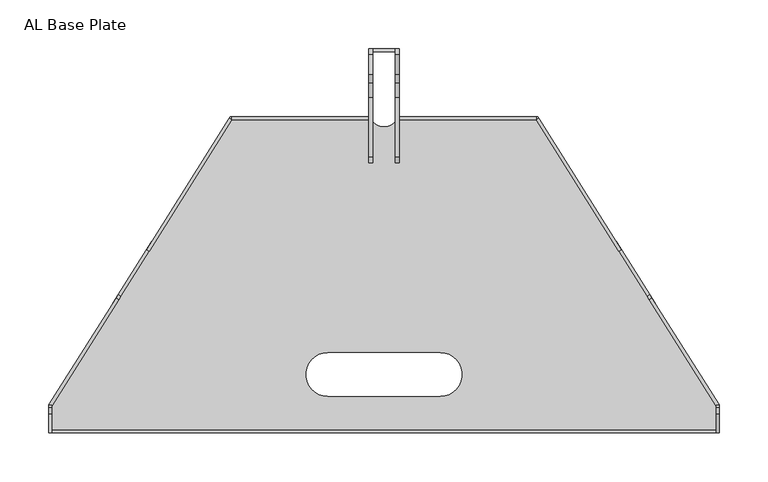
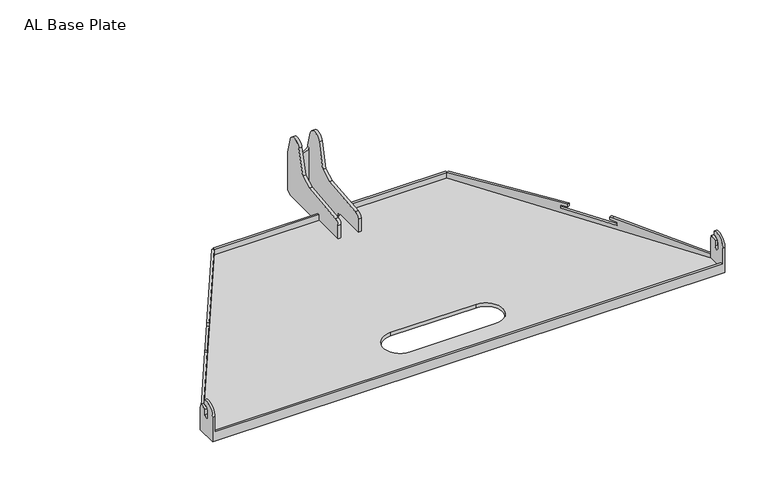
"""IFC4 building model written with IfcOpenShell, lengths in millimetres: proxy geometry, d&b A-Series Base Plate : AL Base Plate."""

import ifcopenshell
import ifcopenshell.guid

model = None  # the IFC model being written
_history = None  # IfcOwnerHistory: only IFC2X3 demands one
_inside = {}  # id of a spatial element -> (the spatial element, [elements in it])
_under = {}  # id of a project, library or spatial element -> (it, [spatial elements below it])
_declared = {}  # id of a project -> (the project, [libraries it declares])
_typed = {}  # id of a type object -> (the type object, [elements of that type])
_made_of = {}  # id of a material, layer set ... -> (it, [elements and type objects made of it])


def new_model(schema):
    """Start an empty IFC model of exactly this schema.

    Asked for "IFC4X3", IfcOpenShell would pick the latest addendum, in which some entities
    have other attributes; the version numbers below select the first issue.
    IFC2X3 requires an IfcOwnerHistory on every rooted entity: one is made here for all.
    """
    global model, _history
    if schema == "IFC4X3":
        model = ifcopenshell.file(schema_version=(4, 3, 0, 0))
    else:
        model = ifcopenshell.file(schema=schema)
    _inside.clear()
    _under.clear()
    _declared.clear()
    _typed.clear()
    _made_of.clear()
    _history = None
    if model.schema == "IFC2X3":
        org = make("IfcOrganization", Name="unknown")
        user = make(
            "IfcPersonAndOrganization",
            ThePerson=make("IfcPerson", FamilyName="unknown"),
            TheOrganization=org,
        )
        app = make(
            "IfcApplication",
            ApplicationDeveloper=org,
            Version="unknown",
            ApplicationFullName="unknown",
            ApplicationIdentifier="unknown",
        )
        _history = make(
            "IfcOwnerHistory",
            OwningUser=user,
            OwningApplication=app,
            ChangeAction="ADDED",
            CreationDate=0,
        )
    return model


def make(cls, **values):
    """One entity of the class cls with the attributes given. An attribute that is None is left unset."""
    return model.create_entity(
        cls, **{name: value for name, value in values.items() if value is not None}
    )


def rooted(cls, **values):
    """An entity with a GlobalId (a new one), such as an element, a storey or a relation."""
    return make(cls, GlobalId=ifcopenshell.guid.new(), OwnerHistory=_history, **values)


def si_unit(unit_type, name, prefix=None):
    """IfcSIUnit, for example si_unit("LENGTHUNIT", "METRE", prefix="MILLI")."""
    return make("IfcSIUnit", UnitType=unit_type, Prefix=prefix, Name=name)


def assignment(units):
    """IfcUnitAssignment: the units of a project."""
    return None if units is None else make("IfcUnitAssignment", Units=units)


def point(xyz):
    """IfcCartesianPoint."""
    return None if xyz is None else make("IfcCartesianPoint", Coordinates=xyz)


def direction(xyz):
    """IfcDirection."""
    return None if xyz is None else make("IfcDirection", DirectionRatios=xyz)


def frame(location, z_axis=None, x_axis=None):
    """IfcAxis2Placement3D, a coordinate frame: its origin and axes. An axis left out is left unset."""
    return make(
        "IfcAxis2Placement3D",
        Location=point(location),
        Axis=direction(z_axis),
        RefDirection=direction(x_axis),
    )


def frame_2d(location, x_axis=None):
    """IfcAxis2Placement2D, a coordinate frame in the plane: its origin and x axis."""
    return make(
        "IfcAxis2Placement2D", Location=point(location), RefDirection=direction(x_axis)
    )


def origin():
    """The frame at (0, 0, 0) with its axes left unset."""
    return frame((0.0, 0.0, 0.0))


def place(relative_to, where):
    """IfcLocalPlacement: puts the frame where relative to a parent placement (None: the world)."""
    return make(
        "IfcLocalPlacement", PlacementRelTo=relative_to, RelativePlacement=where
    )


def context(
    kind, dimensions, precision=None, world=None, true_north=None, identifier=None
):
    """IfcGeometricRepresentationContext, for example the 3D "Model" context."""
    return make(
        "IfcGeometricRepresentationContext",
        ContextIdentifier=identifier,
        ContextType=kind,
        CoordinateSpaceDimension=dimensions,
        Precision=precision,
        WorldCoordinateSystem=world,
        TrueNorth=true_north,
    )


def project(units=None, contexts=None):
    """IfcProject with its units and contexts."""
    return rooted(
        "IfcProject",
        Name="project",
        RepresentationContexts=contexts,
        UnitsInContext=assignment(units),
    )


def spatial(cls, under=None, at=None, **own):
    """A site, building, storey or space (cls), placed at a placement, below another one or the project."""
    s = rooted(cls, ObjectPlacement=at, **own)
    if under is not None:
        _under.setdefault(under.id(), (under, []))[1].append(s)
    return s


def polyline(points):
    """IfcPolyline through the points."""
    return make("IfcPolyline", Points=[point(p) for p in points])


def circle_curve(where, radius):
    """IfcCircle in the frame where."""
    return make("IfcCircle", Position=where, Radius=radius)


def trimmed(basis, trim1, trim2, sense, master):
    """IfcTrimmedCurve: the piece of a basis curve between two trims."""
    return make(
        "IfcTrimmedCurve",
        BasisCurve=basis,
        Trim1=trim1,
        Trim2=trim2,
        SenseAgreement=sense,
        MasterRepresentation=master,
    )


def segment(curve, same_sense, transition):
    """IfcCompositeCurveSegment."""
    return make(
        "IfcCompositeCurveSegment",
        Transition=transition,
        SameSense=same_sense,
        ParentCurve=curve,
    )


def composite_curve(segments, self_intersect=None):
    """IfcCompositeCurve: segments joined end to end."""
    return make("IfcCompositeCurve", Segments=segments, SelfIntersect=self_intersect)


def outline(outer, holes=None, kind="AREA"):
    """IfcArbitraryClosedProfileDef: a profile drawn as a closed curve; with holes, ...WithVoids."""
    if holes is None:
        return make("IfcArbitraryClosedProfileDef", ProfileType=kind, OuterCurve=outer)
    return make(
        "IfcArbitraryProfileDefWithVoids",
        ProfileType=kind,
        OuterCurve=outer,
        InnerCurves=holes,
    )


def extrude(swept, where, along, depth):
    """IfcExtrudedAreaSolid: the profile swept, set in the frame where, extruded along a direction by depth."""
    return make(
        "IfcExtrudedAreaSolid",
        SweptArea=swept,
        Position=where,
        ExtrudedDirection=direction(along),
        Depth=depth,
    )


def shape(context_of_items, identifier, shape_type, items):
    """IfcShapeRepresentation: the items that make up one representation, for example the "Body"."""
    return make(
        "IfcShapeRepresentation",
        ContextOfItems=context_of_items,
        RepresentationIdentifier=identifier,
        RepresentationType=shape_type,
        Items=items,
    )


def source(mapping_origin, context_of_items, identifier, shape_type, items):
    """IfcRepresentationMap: a shape defined once, which mapped items show again and again."""
    return make(
        "IfcRepresentationMap",
        MappingOrigin=mapping_origin,
        MappedRepresentation=shape(context_of_items, identifier, shape_type, items),
    )


def transform(
    local_origin,
    x_axis=None,
    y_axis=None,
    z_axis=None,
    scale=None,
    scale2=None,
    scale3=None,
    uniform=True,
):
    """IfcCartesianTransformationOperator3D, or its non-uniform kind. x_axis, y_axis, z_axis: its Axis1, 2, 3."""
    if uniform:
        return make(
            "IfcCartesianTransformationOperator3D",
            Axis1=direction(x_axis),
            Axis2=direction(y_axis),
            LocalOrigin=point(local_origin),
            Scale=scale,
            Axis3=direction(z_axis),
        )
    return make(
        "IfcCartesianTransformationOperator3DnonUniform",
        Axis1=direction(x_axis),
        Axis2=direction(y_axis),
        LocalOrigin=point(local_origin),
        Scale=scale,
        Axis3=direction(z_axis),
        Scale2=scale2,
        Scale3=scale3,
    )


def mapped(mapping_source, mapping_target):
    """IfcMappedItem: shows the shape of a source again, moved by a transform."""
    return make(
        "IfcMappedItem", MappingSource=mapping_source, MappingTarget=mapping_target
    )


def made_of(thing, what):
    """Note that an element or type object is made of a material, layer set ...; save() writes the relation."""
    if what is not None:
        _made_of.setdefault(what.id(), (what, []))[1].append(thing)
    return thing


def element(
    cls,
    number,
    at=None,
    inside=None,
    cuts=None,
    type_object=None,
    material=None,
    context=None,
    identifier="Body",
    shape_type=None,
    held_by="IfcProductDefinitionShape",
    body=None,
    shapes=None,
    **own,
):
    """One element of the class cls, such as IfcWall. Its Tag is "e" and its number.

    at: its placement. inside: the storey or other place that contains it. cuts: it is an
    opening in that element (IfcRelVoidsElement). A single representation is given by context,
    identifier, shape_type and body (its items); several are given by shapes. held_by: the class
    of the entity that holds the representations. save() writes the other relations.
    """
    e = rooted(cls, Tag="e%d" % number, ObjectPlacement=at, **own)
    if body is not None:
        shapes = [shape(context, identifier, shape_type, body)]
    if shapes is not None:
        e.Representation = make(held_by, Representations=shapes)
    if inside is not None:
        _inside.setdefault(inside.id(), (inside, []))[1].append(e)
    if cuts is not None:
        rooted(
            "IfcRelVoidsElement", RelatingBuildingElement=cuts, RelatedOpeningElement=e
        )
    if type_object is not None:
        _typed.setdefault(type_object.id(), (type_object, []))[1].append(e)
    return made_of(e, material)


def aggregate(whole, parts):
    """IfcRelAggregates: a whole, such as a stair, and the parts it consists of."""
    return rooted("IfcRelAggregates", RelatingObject=whole, RelatedObjects=parts)


def save(model, path):
    """Write the relations noted so far, then the file.

    IfcRelAggregates (storeys below a building ...), IfcRelContainedInSpatialStructure (elements
    in a storey), IfcRelDefinesByType, IfcRelAssociatesMaterial and IfcRelDeclares: one each for
    every whole, place, type object, material and project.
    """
    for whole, parts in _under.values():
        aggregate(whole, parts)
    for where, things in _inside.values():
        rooted(
            "IfcRelContainedInSpatialStructure",
            RelatedElements=things,
            RelatingStructure=where,
        )
    for kind, things in _typed.values():
        rooted("IfcRelDefinesByType", RelatedObjects=things, RelatingType=kind)
    for what, things in _made_of.values():
        rooted("IfcRelAssociatesMaterial", RelatedObjects=things, RelatingMaterial=what)
    for by, libraries in _declared.values():
        rooted("IfcRelDeclares", RelatingContext=by, RelatedDefinitions=libraries)
    model.write(path)


def plane_surface(at):
    """IfcPlane: the flat surface through the origin of the frame at, square to its z axis."""
    return make("IfcPlane", Position=at)


def cylinder_surface(at, radius):
    """IfcCylindricalSurface: all points at the distance radius from the z axis of the frame at."""
    return make("IfcCylindricalSurface", Position=at, Radius=radius)


def revolved_surface(curve, axis_point, axis_direction):
    """IfcSurfaceOfRevolution: the curve turned about the line through axis_point along axis_direction."""
    return make(
        "IfcSurfaceOfRevolution",
        SweptCurve=make("IfcArbitraryOpenProfileDef", ProfileType="CURVE", Curve=curve),
        AxisPosition=make("IfcAxis1Placement", Location=point(axis_point), Axis=direction(axis_direction)),
    )


def advanced_brep(points, edges, surfaces, faces):
    """IfcAdvancedBrep: a solid bounded by faces that lie on surfaces and meet in shared edges.

    An edge is (start, end): straight between two places in points (the first is 0);
    or (start, end, curve); or (start, end, curve, False) where it runs against its curve.
    A face is (place in surfaces, loops), or (place, loops, False) where it looks against
    its surface's normal. A loop lists edges by number (the first is 1), with a minus sign
    where the edge is run from its end to its start. The first loop is the outer one.
    """
    corners = [point(p) for p in points]
    vertices = [make("IfcVertexPoint", VertexGeometry=c) for c in corners]
    made = []
    for start, end, *more in edges:
        made.append(
            make(
                "IfcEdgeCurve",
                EdgeStart=vertices[start],
                EdgeEnd=vertices[end],
                EdgeGeometry=more[0] if more else make("IfcPolyline", Points=[corners[start], corners[end]]),
                SameSense=more[1] if len(more) > 1 else True,
            )
        )
    hull = []
    for where, loops, *sense in faces:
        bounds = []
        for j, loop in enumerate(loops):
            ring = [make("IfcOrientedEdge", EdgeElement=made[abs(k) - 1], Orientation=k > 0) for k in loop]
            bounds.append(
                make(
                    "IfcFaceOuterBound" if j == 0 else "IfcFaceBound",
                    Bound=make("IfcEdgeLoop", EdgeList=ring),
                    Orientation=True,
                )
            )
        hull.append(make("IfcAdvancedFace", Bounds=bounds, FaceSurface=surfaces[where], SameSense=sense[0] if sense else True))
    return make("IfcAdvancedBrep", Outer=make("IfcClosedShell", CfsFaces=hull))


def al_base_plate_bf33ff07(model_context):
    return source(origin(), model_context, "Body", "SolidModel", [
        advanced_brep(
        [(-341.0, 28.25, 31.8354162), (-341.0, 26.3175579, 37.7828613), (-341.0, 17.65, 35.4603962), (-341.0, 17.65, 28.0), (-341.0, 10.85, 28.0), (-341.0, 10.85, 35.0), (-341.0, 19.25, 42.3321211), (-341.0, 19.25, 48.3440061), (-341.0, 0.0, 35.0), (-341.0, 0.0, 13.0), (-341.0, 3.0, 13.0), (-341.0, 3.0, 5.0), (-341.0, 27.6099103, 5.0), (-341.0, 27.6099103, 10.0689244), (-341.0, 28.25, 10.1087011), (-344.0, 28.25, 31.8354162), (-344.0, 28.25, 5.0), (-344.0, 28.4757399, 5.0), (-344.0, 28.4757399, 0.0), (-344.0, 0.0, 0.0), (-344.0, 0.0, 35.0), (-344.0, 19.25, 48.3440061), (-344.0, 19.25, 42.3321211), (-344.0, 10.85, 35.0), (-344.0, 10.85, 28.0), (-344.0, 17.65, 28.0), (-344.0, 17.65, 35.4603962), (-344.0, 26.3175579, 37.7828613), (344.0, 0.0, 0.0), (344.0, 0.0, 35.0), (341.0, 0.0, 35.0), (341.0, 0.0, 13.0), (-342.8396399, 28.25, 10.0367177), (-342.8396399, 28.25, 5.0), (-343.7723416, 28.8372928, 5.0), (15.5, 324.25, 5.0), (15.5, 319.25, 5.0), (11.5, 319.25, 5.0), (-11.5, 319.25, 5.0), (-15.5, 319.25, 5.0), (-15.5, 324.25, 5.0), (-15.75, 324.25, 5.0), (-15.75, 321.25, 5.0), (-156.0, 321.25, 5.0), (-156.0, 324.25, 5.0), (-157.7603006, 324.25, 5.0), (-158.6982535, 322.7604018, 5.0), (-156.1595994, 321.1618916, 5.0), (341.0, 3.0, 5.0), (341.0, 27.6099103, 5.0), (156.1595994, 321.1618916, 5.0), (158.6982535, 322.7604018, 5.0), (157.7603006, 324.25, 5.0), (156.0, 324.25, 5.0), (156.0, 321.25, 5.0), (15.75, 321.25, 5.0), (15.75, 324.25, 5.0), (57.5, 82.5, 5.0), (57.5, 37.5, 5.0), (-57.5, 37.5, 5.0), (-57.5, 82.5, 5.0), (344.0, 28.25, 5.0), (344.0, 28.4757399, 5.0), (343.7723416, 28.8372928, 5.0), (342.8396399, 28.25, 5.0), (-15.5, 324.25, 0.0), (-15.5, 319.25, 0.0), (-11.5, 319.25, 0.0), (11.5, 319.25, 0.0), (15.5, 319.25, 0.0), (15.5, 324.25, 0.0), (157.7603006, 324.25, 0.0), (344.0, 28.4757399, 0.0), (-157.7603006, 324.25, 0.0), (57.5, 82.5, 0.0), (-57.5, 82.5, 0.0), (-57.5, 37.5, 0.0), (57.5, 37.5, 0.0), (-156.0, 324.25, 13.0), (-15.75, 324.25, 13.0), (-343.7723416, 28.8372928, 10.0367177), (-274.8731697, 138.2586549, 19.532382), (-272.7432565, 141.64125, 19.532382), (-272.7432565, 141.64125, 15.732382), (-278.0573146, 133.2017948, 15.0), (-278.0573146, 133.2017948, 11.0), (-238.0945582, 196.6681489, 11.0), (-238.0945582, 196.6681489, 15.0), (-243.4086163, 188.2286937, 15.732382), (-243.4086163, 188.2286937, 19.70095), (-158.6982535, 322.7604018, 12.9609546), (344.0, 28.25, 31.8354162), (344.0, 26.3175579, 37.7828613), (344.0, 17.65, 35.4603962), (344.0, 17.65, 28.0), (344.0, 10.85, 28.0), (344.0, 10.85, 35.0), (344.0, 19.25, 42.3321211), (344.0, 19.25, 48.3440061), (158.6982535, 322.7604018, 12.9609546), (243.4086163, 188.2286937, 19.70095), (243.4086163, 188.2286937, 15.732382), (238.0945582, 196.6681489, 15.0), (238.0945582, 196.6681489, 11.0), (278.0573146, 133.2017948, 11.0), (278.0573146, 133.2017948, 15.0), (272.7432565, 141.64125, 15.732382), (272.7432565, 141.64125, 19.532382), (274.8731697, 138.2586549, 19.532382), (343.7723416, 28.8372928, 10.0367177), (15.75, 324.25, 13.0), (156.0, 324.25, 13.0), (-156.1595994, 321.1618916, 12.9609546), (-240.8699621, 186.6301835, 19.70095), (-240.8699621, 186.6301835, 15.732382), (-235.5559041, 195.0696386, 15.0), (-235.5559041, 195.0696386, 11.0), (-275.5186605, 131.6032845, 11.0), (-275.5186605, 131.6032845, 15.0), (-270.2046024, 140.0427397, 15.732382), (-270.2046024, 140.0427397, 19.532382), (-272.3345156, 136.6601446, 19.532382), (341.0, 19.25, 48.3440061), (341.0, 19.25, 42.3321211), (341.0, 10.85, 35.0), (341.0, 10.85, 28.0), (341.0, 17.65, 28.0), (341.0, 17.65, 35.4603962), (341.0, 26.3175579, 37.7828613), (341.0, 28.25, 31.8354162), (341.0, 28.25, 10.1087011), (341.0, 27.6099103, 10.0689244), (341.0, 3.0, 13.0), (342.8396399, 28.25, 10.0367177), (272.3345156, 136.6601446, 19.532382), (270.2046024, 140.0427397, 19.532382), (270.2046024, 140.0427397, 15.732382), (275.5186605, 131.6032845, 15.0), (275.5186605, 131.6032845, 11.0), (235.5559041, 195.0696386, 11.0), (235.5559041, 195.0696386, 15.0), (240.8699621, 186.6301835, 15.732382), (240.8699621, 186.6301835, 19.70095), (156.1595994, 321.1618916, 12.9609546), (-156.0, 321.25, 13.0), (-15.75, 321.25, 13.0), (15.75, 321.25, 13.0), (156.0, 321.25, 13.0)],
        [
            (0, 1),
            (1, 2),
            (2, 3),
            (3, 4, circle_curve(frame((-341.0, 14.25, 28.0), z_axis=(-1.0, 0.0, 0.0), x_axis=(0.0, 0.0, 1.0)), 3.4)),
            (4, 5),
            (5, 6, circle_curve(frame((-341.0, 18.25, 35.0), z_axis=(-1.0, 0.0, 0.0), x_axis=(0.0, 0.0, 1.0)), 7.4)),
            (6, 7),
            (7, 8, circle_curve(frame((-341.0, 14.25, 35.0), z_axis=(1.0, 0.0, 0.0), x_axis=(0.0, 0.0, -1.0)), 14.25)),
            (8, 9),
            (9, 10),
            (10, 11),
            (11, 12),
            (12, 13),
            (13, 14),
            (14, 0),
            (15, 16),
            (16, 17),
            (17, 18),
            (18, 19),
            (19, 20),
            (20, 21, circle_curve(frame((-344.0, 14.25, 35.0), z_axis=(-1.0, 0.0, 0.0), x_axis=(0.0, 0.0, -1.0)), 14.25)),
            (21, 22),
            (22, 23, circle_curve(frame((-344.0, 18.25, 35.0), z_axis=(1.0, 0.0, 0.0), x_axis=(0.0, 0.0, 1.0)), 7.4)),
            (23, 24),
            (24, 25, circle_curve(frame((-344.0, 14.25, 28.0), z_axis=(1.0, 0.0, 0.0), x_axis=(0.0, 0.0, 1.0)), 3.4)),
            (25, 26),
            (26, 27),
            (27, 15),
            (0, 15),
            (27, 1),
            (26, 2),
            (25, 3),
            (24, 4),
            (23, 5),
            (22, 6),
            (21, 7),
            (20, 8),
            (19, 28),
            (28, 29),
            (29, 30),
            (30, 31),
            (31, 9),
            (14, 32),
            (32, 33),
            (33, 16),
            (33, 34),
            (34, 17),
            (35, 36),
            (36, 37),
            (37, 38, circle_curve(frame((0.0, 328.9229843, 5.0), z_axis=(0.0, 0.0, -1.0), x_axis=(1.0, 0.0, 0.0)), 15.0271962)),
            (38, 39),
            (39, 40),
            (40, 41),
            (41, 42),
            (42, 43),
            (43, 44),
            (44, 45),
            (45, 46),
            (46, 47),
            (47, 12),
            (11, 48),
            (48, 49),
            (49, 50),
            (50, 51),
            (51, 52),
            (52, 53),
            (53, 54),
            (54, 55),
            (55, 56),
            (56, 35),
            (57, 58, circle_curve(frame((57.5, 60.0, 5.0), z_axis=(0.0, 0.0, -1.0), x_axis=(1.0, 0.0, 0.0)), 22.5)),
            (58, 59),
            (59, 60, circle_curve(frame((-57.5, 60.0, 5.0), z_axis=(0.0, 0.0, -1.0), x_axis=(1.0, 0.0, 0.0)), 22.5)),
            (60, 57),
            (61, 62),
            (62, 63),
            (63, 64),
            (64, 61),
            (65, 66),
            (66, 67),
            (67, 68, circle_curve(frame((0.0, 328.9229843, 0.0), z_axis=(0.0, 0.0, 1.0), x_axis=(1.0, 0.0, 0.0)), 15.0271962)),
            (68, 69),
            (69, 70),
            (70, 71),
            (71, 72),
            (72, 28),
            (18, 73),
            (73, 65),
            (74, 75),
            (75, 76, circle_curve(frame((-57.5, 60.0, 0.0), z_axis=(0.0, 0.0, 1.0), x_axis=(1.0, 0.0, 0.0)), 22.5)),
            (76, 77),
            (77, 74, circle_curve(frame((57.5, 60.0, 0.0), z_axis=(0.0, 0.0, 1.0), x_axis=(1.0, 0.0, 0.0)), 22.5)),
            (73, 45),
            (44, 78),
            (78, 79),
            (79, 41),
            (40, 65),
            (34, 80),
            (80, 81),
            (81, 82),
            (82, 83),
            (83, 84),
            (84, 85),
            (85, 86),
            (86, 87),
            (87, 88),
            (88, 89),
            (89, 90),
            (90, 46),
            (72, 62),
            (61, 91),
            (91, 92),
            (92, 93),
            (93, 94),
            (94, 95, circle_curve(frame((344.0, 14.25, 28.0), z_axis=(-1.0, 0.0, 0.0), x_axis=(0.0, 0.0, 1.0)), 3.4)),
            (95, 96),
            (96, 97, circle_curve(frame((344.0, 18.25, 35.0), z_axis=(-1.0, 0.0, 0.0), x_axis=(0.0, 0.0, 1.0)), 7.4)),
            (97, 98),
            (98, 29, circle_curve(frame((344.0, 14.25, 35.0), z_axis=(1.0, 0.0, 0.0), x_axis=(0.0, 0.0, -1.0)), 14.25)),
            (71, 52),
            (51, 99),
            (99, 100),
            (100, 101),
            (101, 102),
            (102, 103),
            (103, 104),
            (104, 105),
            (105, 106),
            (106, 107),
            (107, 108),
            (108, 109),
            (109, 63),
            (70, 35),
            (56, 110),
            (110, 111),
            (111, 53),
            (69, 36),
            (68, 37),
            (67, 38),
            (66, 39),
            (57, 74),
            (77, 58),
            (76, 59),
            (75, 60),
            (47, 112),
            (112, 113),
            (113, 114),
            (114, 115),
            (115, 116),
            (116, 117),
            (117, 118),
            (118, 119),
            (119, 120),
            (120, 121),
            (121, 13),
            (80, 32),
            (121, 81),
            (120, 82),
            (119, 83),
            (118, 84),
            (117, 85),
            (116, 86),
            (115, 87),
            (114, 88),
            (113, 89),
            (112, 90),
            (30, 122, circle_curve(frame((341.0, 14.25, 35.0), z_axis=(-1.0, 0.0, 0.0), x_axis=(0.0, 0.0, -1.0)), 14.25)),
            (122, 123),
            (123, 124, circle_curve(frame((341.0, 18.25, 35.0), z_axis=(1.0, 0.0, 0.0), x_axis=(0.0, 0.0, 1.0)), 7.4)),
            (124, 125),
            (125, 126, circle_curve(frame((341.0, 14.25, 28.0), z_axis=(1.0, 0.0, 0.0), x_axis=(0.0, 0.0, 1.0)), 3.4)),
            (126, 127),
            (127, 128),
            (128, 129),
            (129, 130),
            (130, 131),
            (131, 49),
            (48, 132),
            (132, 31),
            (128, 92),
            (91, 129),
            (127, 93),
            (126, 94),
            (125, 95),
            (124, 96),
            (123, 97),
            (122, 98),
            (64, 133),
            (133, 130),
            (134, 135),
            (135, 136),
            (136, 137),
            (137, 138),
            (138, 139),
            (139, 140),
            (140, 141),
            (141, 142),
            (142, 143),
            (143, 50),
            (131, 134),
            (108, 134),
            (133, 109),
            (107, 135),
            (106, 136),
            (105, 137),
            (104, 138),
            (103, 139),
            (102, 140),
            (101, 141),
            (100, 142),
            (99, 143),
            (78, 144),
            (144, 145),
            (145, 79),
            (110, 146),
            (146, 147),
            (147, 111),
            (132, 10),
            (43, 144),
            (42, 145),
            (55, 146),
            (54, 147),
        ],
        [
            plane_surface(frame((-341.0, 26.6108041, 36.8803424), z_axis=(1.0000000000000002, 0.0, 0.0), x_axis=(0.0, -0.30901699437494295, 0.9510565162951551))),
            plane_surface(frame((-344.0, 26.6108041, 36.8803424), z_axis=(-1.0000000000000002, 0.0, 0.0), x_axis=(0.0, 0.30901699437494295, -0.9510565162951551))),
            plane_surface(frame((-341.0, 28.25, 31.8354162), z_axis=(0.0, 0.9510565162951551, 0.30901699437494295), x_axis=(-1.0, 0.0, 0.0))),
            plane_surface(frame((-341.0, 26.3175579, 37.7828613), z_axis=(0.0, -0.25881904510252, 0.9659258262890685), x_axis=(-1.0, 0.0, 0.0))),
            plane_surface(frame((-341.0, 17.65, 35.4603962), z_axis=(0.0, -1.0, 0.0), x_axis=(-1.0, 0.0, 0.0))),
            revolved_surface(polyline([(-344.0, 14.25, 31.4), (-341.0, 14.25, 31.4)]), (-344.0, 14.25, 28.0), (-1.0, 0.0, 0.0)),
            plane_surface(frame((-341.0, 10.85, 28.0), z_axis=(0.0, 1.0, 0.0), x_axis=(-1.0, 0.0, 0.0))),
            revolved_surface(polyline([(-344.0, 18.25, 42.4), (-341.0, 18.25, 42.4)]), (-344.0, 18.25, 35.0), (-1.0, 0.0, 0.0)),
            plane_surface(frame((-341.0, 19.25, 42.3321211), z_axis=(0.0, 1.0, 0.0), x_axis=(-1.0, 0.0, 0.0))),
            cylinder_surface(frame((-344.0, 14.25, 35.0), z_axis=(1.0, 0.0, 0.0), x_axis=(0.0, 0.0, -1.0)), 14.25),
            plane_surface(frame((-341.0, 0.0, 35.0), z_axis=(0.0, -1.0, 0.0), x_axis=(-1.0, 0.0, 0.0))),
            plane_surface(frame((-341.0, 28.25, 5.0), z_axis=(0.0, 1.0, 0.0), x_axis=(-1.0, 0.0, 0.0))),
            plane_surface(frame((-156.0, 324.25, 5.0), z_axis=(0.0, 0.0, 1.0), x_axis=(-1.0, 0.0, 0.0))),
            plane_surface(frame((-156.0, 324.25, 0.0), z_axis=(0.0, 0.0, -1.0), x_axis=(1.0, 0.0, 0.0))),
            plane_surface(frame((-15.5, 324.25, 5.0), z_axis=(0.0, 1.0, 0.0), x_axis=(0.0, 0.0, -1.0))),
            plane_surface(frame((-157.7603006, 324.25, 5.0), z_axis=(-0.8462180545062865, 0.5328367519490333, 0.0), x_axis=(0.0, 0.0, -1.0))),
            plane_surface(frame((344.0, 0.0, 5.0), z_axis=(1.0, 0.0, 0.0), x_axis=(0.0, 0.0, -1.0))),
            plane_surface(frame((344.0, 28.4757399, 5.0), z_axis=(0.8462180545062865, 0.5328367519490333, 0.0), x_axis=(0.0, 0.0, -1.0))),
            plane_surface(frame((157.7603006, 324.25, 5.0), z_axis=(0.0, 1.0, 0.0), x_axis=(0.0, 0.0, -1.0))),
            plane_surface(frame((15.5, 324.25, 5.0), z_axis=(-1.0, 0.0, 0.0), x_axis=(0.0, 0.0, -1.0))),
            plane_surface(frame((15.5, 319.25, 5.0), z_axis=(0.0, 1.0, 0.0), x_axis=(0.0, 0.0, -1.0))),
            revolved_surface(polyline([(15.0271962, 328.9229843, 0.0), (15.0271962, 328.9229843, 5.0)]), (0.0, 328.9229843, 0.0), (0.0, 0.0, -1.0)),
            plane_surface(frame((-11.5, 319.25, 5.0), z_axis=(0.0, 1.0, 0.0), x_axis=(0.0, 0.0, -1.0))),
            plane_surface(frame((-15.5, 319.25, 5.0), z_axis=(1.0, 0.0, 0.0), x_axis=(0.0, 0.0, -1.0))),
            revolved_surface(polyline([(80.0, 60.0, 0.0), (80.0, 60.0, 5.0)]), (57.5, 60.0, 0.0), (0.0, 0.0, -1.0)),
            plane_surface(frame((57.5, 37.5, 5.0), z_axis=(0.0, 1.0, 0.0), x_axis=(0.0, 0.0, -1.0))),
            revolved_surface(polyline([(-35.0, 60.0, 0.0), (-35.0, 60.0, 5.0)]), (-57.5, 60.0, 0.0), (0.0, 0.0, -1.0)),
            plane_surface(frame((-57.5, 82.5, 5.0), z_axis=(0.0, -1.0, 0.0), x_axis=(0.0, 0.0, -1.0))),
            plane_surface(frame((-272.3540013, 136.6291985, 19.5296964), z_axis=(0.8462180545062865, -0.5328367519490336, 0.0), x_axis=(-0.5314058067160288, -0.8439455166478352, -0.07323819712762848))),
            plane_surface(frame((-343.7723416, 28.8372928, 10.0367177), z_axis=(-0.0390240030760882, -0.0619754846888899, 0.9973144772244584), x_axis=(0.8462180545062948, -0.53283675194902, 0.0))),
            plane_surface(frame((-274.8731697, 138.2586549, 19.532382), z_axis=(0.0, 0.0, 1.0), x_axis=(0.8462180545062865, -0.5328367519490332, 0.0))),
            plane_surface(frame((-272.7432565, 141.64125, 19.532382), z_axis=(0.5328367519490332, 0.8462180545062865, 0.0), x_axis=(0.8462180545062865, -0.5328367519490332, 0.0))),
            plane_surface(frame((-272.7432565, 141.64125, 15.732382), z_axis=(0.039024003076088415, 0.061975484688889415, -0.9973144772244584), x_axis=(0.8462180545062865, -0.5328367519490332, 0.0))),
            plane_surface(frame((-278.0573146, 133.2017948, 15.0), z_axis=(0.5328367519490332, 0.8462180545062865, 0.0), x_axis=(0.8462180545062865, -0.5328367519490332, 0.0))),
            plane_surface(frame((-278.0573146, 133.2017948, 11.0), z_axis=(0.0, 0.0, 1.0), x_axis=(0.8462180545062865, -0.5328367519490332, 0.0))),
            plane_surface(frame((-238.0945582, 196.6681489, 11.0), z_axis=(-0.5328367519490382, -0.8462180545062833, 0.0), x_axis=(0.8462180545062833, -0.5328367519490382, 0.0))),
            plane_surface(frame((-238.0945582, 196.6681489, 15.0), z_axis=(-0.039024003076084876, -0.06197548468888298, -0.9973144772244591), x_axis=(0.8462180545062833, -0.5328367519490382, 0.0))),
            plane_surface(frame((-243.4086163, 188.2286937, 15.732382), z_axis=(-0.5328367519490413, -0.8462180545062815, 0.0), x_axis=(0.8462180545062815, -0.5328367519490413, 0.0))),
            plane_surface(frame((-243.4086163, 188.2286937, 19.70095), z_axis=(0.022569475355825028, 0.03584343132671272, 0.9991025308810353), x_axis=(0.8462180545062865, -0.5328367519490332, 0.0))),
            plane_surface(frame((-158.6982535, 322.7604018, 12.9609546), z_axis=(0.53283675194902, 0.8462180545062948, 0.0), x_axis=(0.8462180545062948, -0.53283675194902, 0.0))),
            plane_surface(frame((-343.7723416, 28.8372928, 5.0), z_axis=(-0.53283675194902, -0.8462180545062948, 0.0), x_axis=(0.8462180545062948, -0.53283675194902, 0.0))),
            plane_surface(frame((341.0, 28.25, 11.5), z_axis=(-1.0, 0.0, 0.0), x_axis=(0.0, 0.0, -1.0))),
            plane_surface(frame((341.0, 26.3175579, 37.7828613), z_axis=(0.0, 0.9510565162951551, 0.30901699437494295), x_axis=(1.0, 0.0, 0.0))),
            plane_surface(frame((341.0, 17.65, 35.4603962), z_axis=(0.0, -0.25881904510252, 0.9659258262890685), x_axis=(1.0, 0.0, 0.0))),
            plane_surface(frame((341.0, 17.65, 28.0), z_axis=(0.0, -1.0, 0.0), x_axis=(1.0, 0.0, 0.0))),
            revolved_surface(polyline([(344.0, 14.25, 31.4), (341.0, 14.25, 31.4)]), (344.0, 14.25, 28.0), (1.0, 0.0, 0.0)),
            plane_surface(frame((341.0, 10.85, 35.0), z_axis=(0.0, 1.0, 0.0), x_axis=(1.0, 0.0, 0.0))),
            revolved_surface(polyline([(344.0, 18.25, 42.4), (341.0, 18.25, 42.4)]), (344.0, 18.25, 35.0), (1.0, 0.0, 0.0)),
            plane_surface(frame((341.0, 19.25, 48.3440061), z_axis=(0.0, 1.0, 0.0), x_axis=(1.0, 0.0, 0.0))),
            cylinder_surface(frame((344.0, 14.25, 35.0), z_axis=(-1.0, 0.0, 0.0), x_axis=(0.0, 0.0, -1.0)), 14.25),
            plane_surface(frame((341.0, 28.25, 31.8354162), z_axis=(0.0, 1.0, 0.0), x_axis=(1.0, 0.0, 0.0))),
            plane_surface(frame((341.2336874, 27.2387825, 9.0707427), z_axis=(-0.8462180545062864, -0.5328367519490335, 0.0), x_axis=(0.0, 0.0, 1.0))),
            plane_surface(frame((274.8731697, 138.2586549, 19.532382), z_axis=(0.03902400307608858, -0.06197548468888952, 0.9973144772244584), x_axis=(-0.8462180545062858, -0.5328367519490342, 0.0))),
            plane_surface(frame((272.7432565, 141.64125, 19.532382), z_axis=(0.0, 0.0, 1.0), x_axis=(-0.8462180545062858, -0.5328367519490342, 0.0))),
            plane_surface(frame((272.7432565, 141.64125, 15.732382), z_axis=(-0.5328367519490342, 0.8462180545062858, 0.0), x_axis=(-0.8462180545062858, -0.5328367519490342, 0.0))),
            plane_surface(frame((278.0573146, 133.2017948, 15.0), z_axis=(-0.039024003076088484, 0.061975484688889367, -0.9973144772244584), x_axis=(-0.8462180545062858, -0.5328367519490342, 0.0))),
            plane_surface(frame((278.0573146, 133.2017948, 11.0), z_axis=(-0.5328367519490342, 0.8462180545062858, 0.0), x_axis=(-0.8462180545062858, -0.5328367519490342, 0.0))),
            plane_surface(frame((238.0945582, 196.6681489, 11.0), z_axis=(0.0, 0.0, 1.0), x_axis=(-0.8462180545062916, -0.5328367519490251, 0.0))),
            plane_surface(frame((238.0945582, 196.6681489, 15.0), z_axis=(0.5328367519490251, -0.8462180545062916, 0.0), x_axis=(-0.8462180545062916, -0.5328367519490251, 0.0))),
            plane_surface(frame((243.4086163, 188.2286937, 15.732382), z_axis=(0.039024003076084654, -0.06197548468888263, -0.9973144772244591), x_axis=(-0.8462180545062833, -0.5328367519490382, 0.0))),
            plane_surface(frame((243.4086163, 188.2286937, 19.70095), z_axis=(0.5328367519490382, -0.8462180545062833, 0.0), x_axis=(-0.8462180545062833, -0.5328367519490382, 0.0))),
            plane_surface(frame((158.6982535, 322.7604018, 12.9609546), z_axis=(-0.022569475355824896, 0.0358434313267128, 0.9991025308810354), x_axis=(-0.8462180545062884, -0.5328367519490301, 0.0))),
            plane_surface(frame((158.6982535, 322.7604018, 5.0), z_axis=(-0.5328367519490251, 0.8462180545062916, 0.0), x_axis=(-0.8462180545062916, -0.5328367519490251, 0.0))),
            plane_surface(frame((343.7723416, 28.8372928, 10.0367177), z_axis=(0.5328367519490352, -0.8462180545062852, 0.0), x_axis=(-0.8462180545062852, -0.5328367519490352, 0.0))),
            plane_surface(frame((-156.0, 324.25, 13.0), z_axis=(0.0, 0.0, 1.0), x_axis=(-1.0, 0.0, 0.0))),
            plane_surface(frame((-156.0, 324.25, 13.0), z_axis=(-1.0, 0.0, 0.0), x_axis=(0.0, 0.0, -1.0))),
            plane_surface(frame((-156.0, 321.25, 13.0), z_axis=(0.0, -1.0, 0.0), x_axis=(0.0, 0.0, -1.0))),
            plane_surface(frame((-15.75, 321.25, 13.0), z_axis=(1.0, 0.0, 0.0), x_axis=(0.0, 0.0, -1.0))),
            plane_surface(frame((15.75, 324.25, 13.0), z_axis=(-1.0, 0.0, 0.0), x_axis=(0.0, 0.0, -1.0))),
            plane_surface(frame((15.75, 321.25, 13.0), z_axis=(0.0, -1.0, 0.0), x_axis=(0.0, 0.0, -1.0))),
            plane_surface(frame((156.0, 321.25, 13.0), z_axis=(1.0, 0.0, 0.0), x_axis=(0.0, 0.0, -1.0))),
            plane_surface(frame((341.0, 3.0, 13.0), z_axis=(0.0, 1.0, 0.0), x_axis=(0.0, 0.0, -1.0))),
        ],
        [
            (0, [[1, 2, 3, 4, 5, 6, 7, 8, 9, 10, 11, 12, 13, 14, 15]]),
            (1, [[16, 17, 18, 19, 20, 21, 22, 23, 24, 25, 26, 27, 28]]),
            (2, [[-1, 29, -28, 30]]),
            (3, [[-2, -30, -27, 31]]),
            (4, [[-3, -31, -26, 32]]),
            (5, [[-4, -32, -25, 33]]),
            (6, [[-5, -33, -24, 34]]),
            (7, [[-6, -34, -23, 35]]),
            (8, [[-7, -35, -22, 36]]),
            (9, [[-8, -36, -21, 37]]),
            (10, [[-37, -20, 38, 39, 40, 41, 42, -9]]),
            (11, [[-16, -29, -15, 43, 44, 45]]),
            (12, [[-17, -45, 46, 47]]),
            (12, [[48, 49, 50, 51, 52, 53, 54, 55, 56, 57, 58, 59, 60, -12, 61, 62, 63, 64, 65, 66, 67, 68, 69, 70], [71, 72, 73, 74]]),
            (12, [[75, 76, 77, 78]]),
            (13, [[79, 80, 81, 82, 83, 84, 85, 86, -38, -19, 87, 88], [89, 90, 91, 92]]),
            (14, [[-88, 93, -57, 94, 95, 96, -53, 97]]),
            (15, [[-87, -18, -47, 98, 99, 100, 101, 102, 103, 104, 105, 106, 107, 108, 109, -58, -93]]),
            (16, [[-86, 110, -75, 111, 112, 113, 114, 115, 116, 117, 118, 119, -39]]),
            (17, [[-85, 120, -65, 121, 122, 123, 124, 125, 126, 127, 128, 129, 130, 131, 132, -76, -110]]),
            (18, [[-84, 133, -70, 134, 135, 136, -66, -120]]),
            (19, [[-48, -133, -83, 137]]),
            (20, [[-49, -137, -82, 138]]),
            (21, [[-50, -138, -81, 139]]),
            (22, [[-51, -139, -80, 140]]),
            (23, [[-52, -140, -79, -97]]),
            (24, [[-71, 141, -92, 142]]),
            (25, [[-72, -142, -91, 143]]),
            (26, [[-73, -143, -90, 144]]),
            (27, [[-74, -144, -89, -141]]),
            (28, [[145, 146, 147, 148, 149, 150, 151, 152, 153, 154, 155, -13, -60]]),
            (29, [[-99, 156, -43, -14, -155, 157]]),
            (30, [[-154, 158, -100, -157]]),
            (31, [[-153, 159, -101, -158]]),
            (32, [[-152, 160, -102, -159]]),
            (33, [[-151, 161, -103, -160]]),
            (34, [[-150, 162, -104, -161]]),
            (35, [[-149, 163, -105, -162]]),
            (36, [[-148, 164, -106, -163]]),
            (37, [[-147, 165, -107, -164]]),
            (38, [[-146, 166, -108, -165]]),
            (39, [[-145, -59, -109, -166]]),
            (40, [[-98, -46, -44, -156]]),
            (41, [[167, 168, 169, 170, 171, 172, 173, 174, 175, 176, 177, -62, 178, 179, -41]]),
            (42, [[-174, 180, -112, 181]]),
            (43, [[-173, 182, -113, -180]]),
            (44, [[-172, 183, -114, -182]]),
            (45, [[-171, 184, -115, -183]]),
            (46, [[-170, 185, -116, -184]]),
            (47, [[-169, 186, -117, -185]]),
            (48, [[-168, 187, -118, -186]]),
            (49, [[-167, -40, -119, -187]]),
            (50, [[-111, -78, 188, 189, -175, -181]]),
            (51, [[190, 191, 192, 193, 194, 195, 196, 197, 198, 199, -63, -177, 200]]),
            (52, [[-131, 201, -200, -176, -189, 202]]),
            (53, [[-190, -201, -130, 203]]),
            (54, [[-191, -203, -129, 204]]),
            (55, [[-192, -204, -128, 205]]),
            (56, [[-193, -205, -127, 206]]),
            (57, [[-194, -206, -126, 207]]),
            (58, [[-195, -207, -125, 208]]),
            (59, [[-196, -208, -124, 209]]),
            (60, [[-197, -209, -123, 210]]),
            (61, [[-198, -210, -122, 211]]),
            (62, [[-199, -211, -121, -64]]),
            (63, [[-132, -202, -188, -77]]),
            (64, [[-95, 212, 213, 214]]),
            (64, [[-135, 215, 216, 217]]),
            (64, [[218, -10, -42, -179]]),
            (65, [[-212, -94, -56, 219]]),
            (66, [[-213, -219, -55, 220]]),
            (67, [[-214, -220, -54, -96]]),
            (68, [[-215, -134, -69, 221]]),
            (69, [[-216, -221, -68, 222]]),
            (70, [[-217, -222, -67, -136]]),
            (71, [[-218, -178, -61, -11]]),
        ],
    ),
        extrude(outline(composite_curve([segment(trimmed(circle_curve(frame_2d((-1.2161151, 0.0)), 14.8), [point((8.1, -11.5))], [point((8.1, 11.5))], True, "CARTESIAN"), True, "CONTINUOUS"), segment(polyline([(8.1, 11.5), (55.8871851, 11.5)]), True, "CONTINUOUS"), segment(trimmed(circle_curve(frame_2d((65.2436189, 0.0)), 14.8254124), [point((55.8871851, 11.5))], [point((55.8871851, -11.5))], True, "CARTESIAN"), True, "CONTINUOUS"), segment(polyline([(55.8871851, -11.5), (8.1, -11.5)]), True, "CONTINUOUS")], self_intersect=False)), frame((0.0, 391.25, 0.0), z_axis=(0.0, 1.0, 0.0), x_axis=(0.0, 0.0, 1.0)), (0.0, 0.0, 1.0), 3.0),
        extrude(outline(composite_curve([segment(polyline([(359.0288619, 45.119324), (368.1328544, 79.0958864)]), True, "CONTINUOUS"), segment(trimmed(circle_curve(frame_2d((378.35, 76.3582105)), 10.5775675), [point((368.1328544, 79.0958864))], [point((388.5671456, 79.0958864))], False, "CARTESIAN"), True, "CONTINUOUS"), segment(polyline([(388.5671456, 79.0958864), (394.25, 57.8871851), (394.25, 6.9122645)]), True, "CONTINUOUS"), segment(trimmed(circle_curve(frame_2d((387.3377355, 6.9122645)), 6.9122645), [point((394.25, 6.9122645))], [point((387.3377355, 0.0))], False, "CARTESIAN"), True, "CONTINUOUS"), segment(polyline([(387.3377355, 0.0), (324.25, 0.0), (324.25, 5.0), (277.25, 5.0), (277.25, 24.0484779)]), True, "CONTINUOUS"), segment(trimmed(circle_curve(frame_2d((284.0373147, 24.0484779)), 6.7873147), [point((277.25, 24.0484779))], [point((283.4162644, 30.8073193))], False, "CARTESIAN"), True, "CONTINUOUS"), segment(polyline([(283.4162644, 30.8073193), (344.524696, 36.4223953), (359.0288619, 45.119324)]), True, "CONTINUOUS")], self_intersect=False)), frame((11.5, 0.0, 0.0), z_axis=(1.0, 0.0, 0.0), x_axis=(0.0, 1.0, 0.0)), (0.0, 0.0, 1.0), 4.0),
        extrude(outline(composite_curve([segment(polyline([(359.0288619, 45.119324), (368.1328544, 79.0958864)]), True, "CONTINUOUS"), segment(trimmed(circle_curve(frame_2d((378.35, 76.3582105)), 10.5775675), [point((368.1328544, 79.0958864))], [point((388.5671456, 79.0958864))], False, "CARTESIAN"), True, "CONTINUOUS"), segment(polyline([(388.5671456, 79.0958864), (394.25, 57.8871851), (394.25, 6.9122645)]), True, "CONTINUOUS"), segment(trimmed(circle_curve(frame_2d((387.3377355, 6.9122645)), 6.9122645), [point((394.25, 6.9122645))], [point((387.3377355, 0.0))], False, "CARTESIAN"), True, "CONTINUOUS"), segment(polyline([(387.3377355, 0.0), (324.25, 0.0), (324.25, 5.0), (277.25, 5.0), (277.25, 24.0484779)]), True, "CONTINUOUS"), segment(trimmed(circle_curve(frame_2d((284.0373147, 24.0484779)), 6.7873147), [point((277.25, 24.0484779))], [point((283.4162644, 30.8073193))], False, "CARTESIAN"), True, "CONTINUOUS"), segment(polyline([(283.4162644, 30.8073193), (344.524696, 36.4223953), (359.0288619, 45.119324)]), True, "CONTINUOUS")], self_intersect=False)), frame((-15.5, 0.0, 0.0), z_axis=(1.0, 0.0, 0.0), x_axis=(0.0, 1.0, 0.0)), (0.0, 0.0, 1.0), 4.0),
    ])


if __name__ == "__main__":
    model = new_model("IFC4")
    model_context = context("Model", 3, world=origin())
    ifc_project = project(units=[si_unit("LENGTHUNIT", "METRE", prefix="MILLI")], contexts=[model_context])
    site = spatial("IfcSite", under=ifc_project)
    building = spatial("IfcBuilding", under=site)
    placement = place(None, origin())
    al_base_plate_shape = al_base_plate_bf33ff07(model_context)
    element("IfcBuildingElementProxy", 1, Name="d&b A-Series Base Plate : AL Base Plate", ObjectType="d&b A-Series Base Plate : AL Base Plate", at=placement, inside=building, context=model_context, shape_type="MappedRepresentation", body=[
        mapped(al_base_plate_shape, transform((0.0, 0.0, 0.0), x_axis=(1.0, 0.0, 0.0), y_axis=(0.0, 1.0, 0.0), z_axis=(0.0, 0.0, 1.0))),
    ])
    save(model, "model.ifc")
